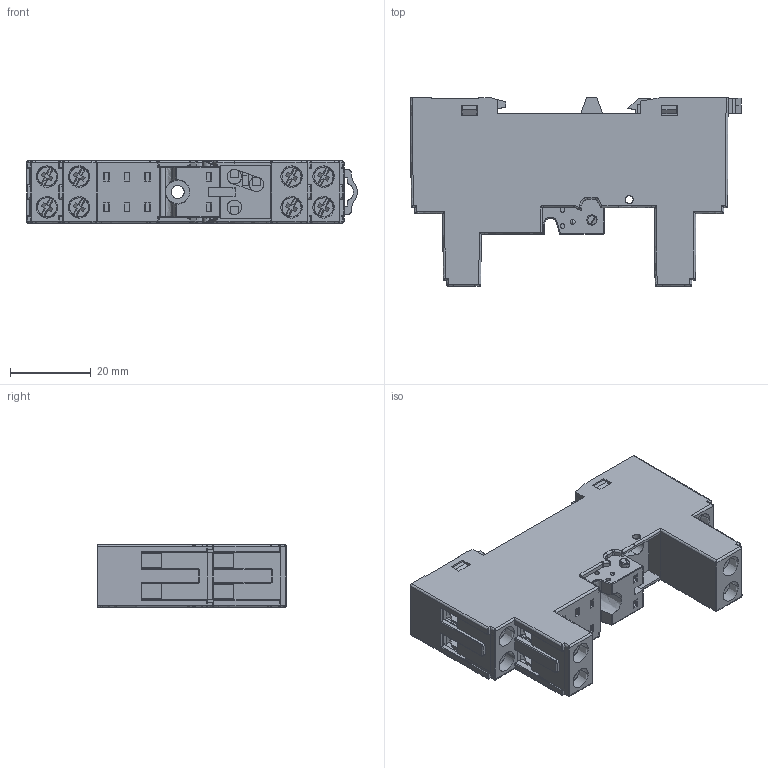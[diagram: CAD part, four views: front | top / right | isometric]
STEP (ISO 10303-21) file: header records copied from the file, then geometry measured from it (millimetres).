
FILE_DESCRIPTION(('STEP AP214'),'2;1');
FILE_NAME('95853 - 30 marzo.stp','2021-03-30T16:55:06',(''),(''),'2007.1.106','THINKDESIGN','');
FILE_SCHEMA(('AUTOMOTIVE_DESIGN'));
Length unit declared in the file: millimetre
Products named in the file (1): top
Bounding box: 82.09 x 46.8 x 15.5 mm (x, y, z)
Surface area: 24385.9 mm2 (no closed solid volume)
Topology: 0 solids, 0 shells, 910 faces, 5273 edges, 5229 vertices
Faces by surface type: bspline 910
Entity records: 38212 total; most frequent: CARTESIAN_POINT 24956, COMPOSITE_CURVE_SEGMENT 5229, QUASI_UNIFORM_CURVE 3612, B_SPLINE_CURVE_WITH_KNOTS 919, OUTER_BOUNDARY_CURVE 910, CURVE_BOUNDED_SURFACE 910, STYLED_ITEM 910, B_SPLINE_SURFACE_WITH_KNOTS 673
